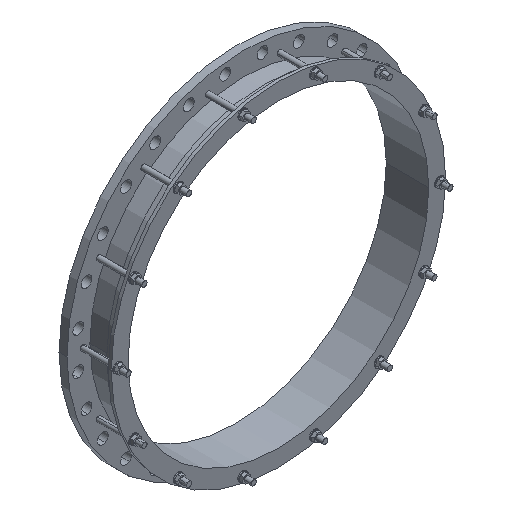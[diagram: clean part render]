
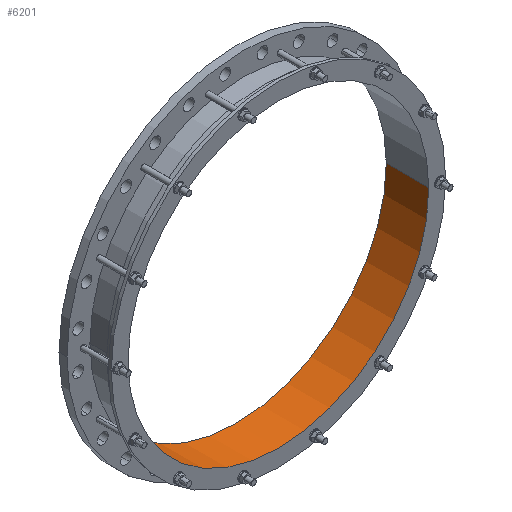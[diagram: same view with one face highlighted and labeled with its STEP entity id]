
A CAD part, isometric view. The second image highlights one B-rep face of the part: STEP entity #6201.
In plain terms, the highlighted cylindrical face has radius 474 mm (diameter 948 mm), a partial arc.
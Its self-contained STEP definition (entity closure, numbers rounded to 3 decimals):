
#7=CARTESIAN_POINT('',(0.,25.,0.));
#8=DIRECTION('',(0.,1.,0.));
#9=DIRECTION('',(1.,0.,0.));
#10=AXIS2_PLACEMENT_3D('',#7,#8,#9);
#1690=CARTESIAN_POINT('',(0.,-109.,0.));
#1691=DIRECTION('',(0.,1.,0.));
#1692=DIRECTION('',(1.,0.,0.));
#1693=AXIS2_PLACEMENT_3D('',#1690,#1691,#1692);
#1695=DIRECTION('',(0.,1.,0.));
#1696=VECTOR('',#1695,134.);
#1697=CARTESIAN_POINT('',(474.,-109.,0.));
#1698=LINE('',#1697,#1696);
#1699=DIRECTION('',(0.,1.,0.));
#1700=VECTOR('',#1699,134.);
#1701=CARTESIAN_POINT('',(-474.,-109.,0.));
#1702=LINE('',#1701,#1700);
#4258=CARTESIAN_POINT('',(474.,-109.,0.));
#4259=CARTESIAN_POINT('',(474.,25.,0.));
#4260=VERTEX_POINT('',#4258);
#4261=VERTEX_POINT('',#4259);
#4270=CARTESIAN_POINT('',(-474.,-109.,0.));
#4271=CARTESIAN_POINT('',(-474.,25.,0.));
#4272=VERTEX_POINT('',#4270);
#4273=VERTEX_POINT('',#4271);
#6188=CARTESIAN_POINT('',(0.,-115.7,0.));
#6189=DIRECTION('',(0.,1.,0.));
#6190=DIRECTION('',(-1.,0.,0.));
#6191=AXIS2_PLACEMENT_3D('',#6188,#6189,#6190);
#6192=CYLINDRICAL_SURFACE('',#6191,474.);
#6194=ORIENTED_EDGE('',*,*,#6193,.F.);
#6195=ORIENTED_EDGE('',*,*,#6099,.T.);
#6197=ORIENTED_EDGE('',*,*,#6196,.T.);
#6198=ORIENTED_EDGE('',*,*,#5231,.F.);
#6199=EDGE_LOOP('',(#6194,#6195,#6197,#6198));
#6200=FACE_OUTER_BOUND('',#6199,.F.);
#6201=ADVANCED_FACE('',(#6200),#6192,.F.);
#11=CIRCLE('',#10,474.);
#1694=CIRCLE('',#1693,474.);
#5231=EDGE_CURVE('',#4261,#4273,#11,.T.);
#6099=EDGE_CURVE('',#4260,#4272,#1694,.T.);
#6193=EDGE_CURVE('',#4260,#4261,#1698,.T.);
#6196=EDGE_CURVE('',#4272,#4273,#1702,.T.);
